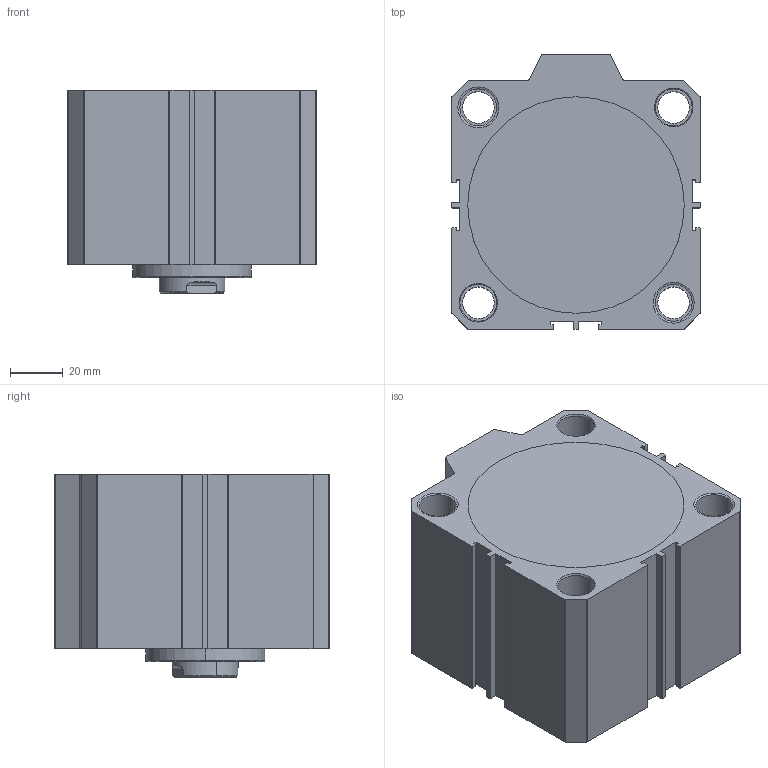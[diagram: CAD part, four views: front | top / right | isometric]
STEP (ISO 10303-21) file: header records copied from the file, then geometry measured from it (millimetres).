
FILE_DESCRIPTION (( 'STEP AP203' ), '1' );
FILE_NAME ('SDA-80X25CYLINDER.STEP', '2015-07-24T07:22:07', ( 'user' ), ( '' ), 'SwSTEP 2.0', 'SolidWorks 2013', '' );
FILE_SCHEMA (( 'CONFIG_CONTROL_DESIGN' ));
Length unit declared in the file: millimetre
Products named in the file (5): SDA 80 ARKA KAPAK; SDA 80 烰 KAPAK; SDA 80X25 M尳 VE TOP; SDA-80X25CYLINDER; SDA 80X25 BORU
Assembly tree (4 placements, depth 2):
  SDA-80X25CYLINDER
    SDA 80X25 BORU
    SDA 80 ARKA KAPAK
    SDA 80 烰 KAPAK
    SDA 80X25 M尳 VE TOP
Bounding box: 94 x 104 x 77 mm (x, y, z)
Volume: 439715.3 mm3; surface area: 117207.1 mm2
Topology: 5 solids, 7 shells, 248 faces, 597 edges, 386 vertices
Faces by surface type: cylinder 113, plane 91, cone 40, torus 2, bspline 2
Entity records: 8220 total; most frequent: CARTESIAN_POINT 1666, DIRECTION 1353, ORIENTED_EDGE 1194, EDGE_CURVE 597, AXIS2_PLACEMENT_3D 525, VERTEX_POINT 386, VECTOR 303, LINE 303
